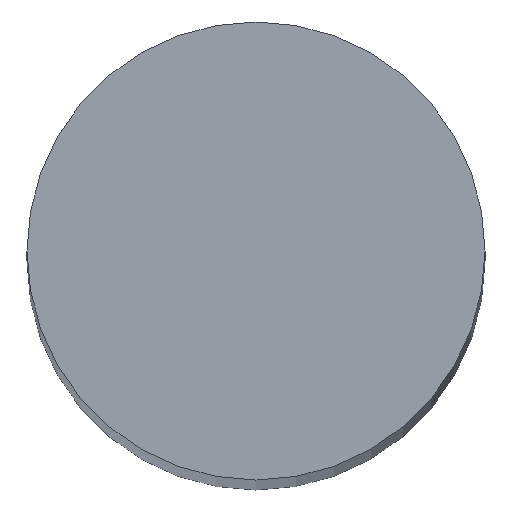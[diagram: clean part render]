
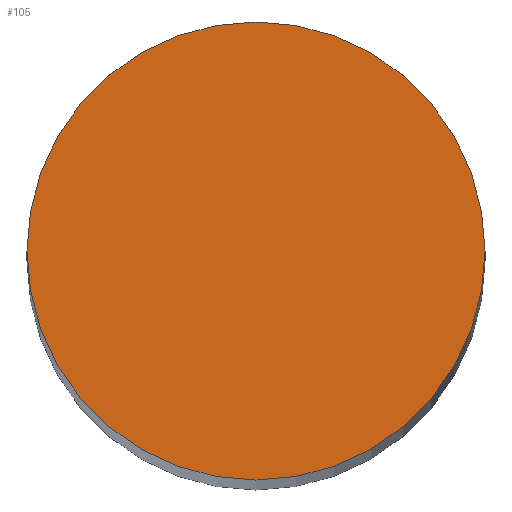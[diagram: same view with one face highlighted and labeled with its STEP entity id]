
A CAD part, top view. The second image highlights one B-rep face of the part: STEP entity #105.
In plain terms, the highlighted planar face has unit normal (0, 0, 1).
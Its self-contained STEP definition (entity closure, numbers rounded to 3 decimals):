
#21 = EDGE_CURVE('',#22,#22,#24,.T.);
#22 = VERTEX_POINT('',#23);
#23 = CARTESIAN_POINT('',(14.,0.,350.));
#24 = SURFACE_CURVE('',#25,(#30,#42),.PCURVE_S1.);
#25 = CIRCLE('',#26,14.);
#26 = AXIS2_PLACEMENT_3D('',#27,#28,#29);
#27 = CARTESIAN_POINT('',(0.,0.,350.));
#28 = DIRECTION('',(0.,0.,1.));
#29 = DIRECTION('',(1.,0.,0.));
#30 = PCURVE('',#31,#36);
#31 = CYLINDRICAL_SURFACE('',#32,14.);
#32 = AXIS2_PLACEMENT_3D('',#33,#34,#35);
#33 = CARTESIAN_POINT('',(0.,0.,0.));
#34 = DIRECTION('',(0.,0.,1.));
#35 = DIRECTION('',(1.,0.,0.));
#36 = DEFINITIONAL_REPRESENTATION('',(#37),#41);
#37 = LINE('',#38,#39);
#38 = CARTESIAN_POINT('',(0.,350.));
#39 = VECTOR('',#40,1.);
#40 = DIRECTION('',(1.,0.));
#41 = ( GEOMETRIC_REPRESENTATION_CONTEXT(2) 
PARAMETRIC_REPRESENTATION_CONTEXT() REPRESENTATION_CONTEXT('2D SPACE',''
  ) );
#42 = PCURVE('',#43,#48);
#43 = PLANE('',#44);
#44 = AXIS2_PLACEMENT_3D('',#45,#46,#47);
#45 = CARTESIAN_POINT('',(0.,0.,350.));
#46 = DIRECTION('',(0.,0.,1.));
#47 = DIRECTION('',(1.,0.,0.));
#48 = DEFINITIONAL_REPRESENTATION('',(#49),#53);
#49 = CIRCLE('',#50,14.);
#50 = AXIS2_PLACEMENT_2D('',#51,#52);
#51 = CARTESIAN_POINT('',(0.,0.));
#52 = DIRECTION('',(1.,0.));
#53 = ( GEOMETRIC_REPRESENTATION_CONTEXT(2) 
PARAMETRIC_REPRESENTATION_CONTEXT() REPRESENTATION_CONTEXT('2D SPACE',''
  ) );
#105 = ADVANCED_FACE('',(#106),#43,.T.);
#106 = FACE_BOUND('',#107,.T.);
#107 = EDGE_LOOP('',(#108));
#108 = ORIENTED_EDGE('',*,*,#21,.T.);
